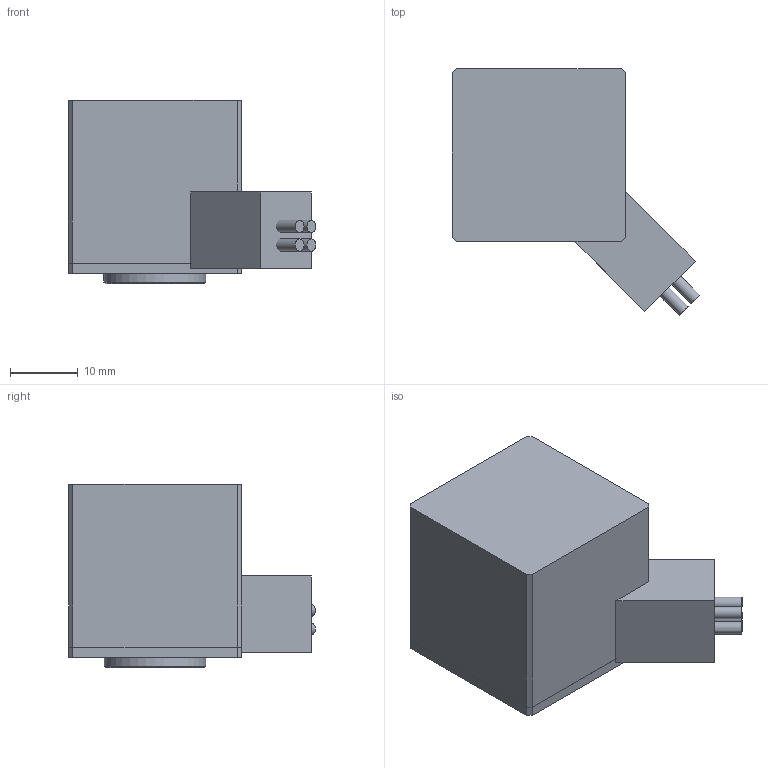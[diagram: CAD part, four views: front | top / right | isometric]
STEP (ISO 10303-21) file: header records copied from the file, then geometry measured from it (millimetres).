
FILE_DESCRIPTION(/* description */ (''),/* implementation_level */ '2;1');
FILE_NAME(/* name */ 'C:/Users/titz/Downloads/D3-1-14-1000-00-uD3RN_STD_Simplified-2.step',/* time_stamp */ '2022-09-14T16:32:19+02:00',/* author */ (''),/* organization */ (''),/* preprocessor_version */ 'ST-DEVELOPER v19',/* originating_system */ 'Autodesk Translation Framework v11.7.0.108',/* authorisation */ '');
FILE_SCHEMA (('AUTOMOTIVE_DESIGN { 1 0 10303 214 3 1 1 }'));
Length unit declared in the file: millimetre
Products named in the file (6): D3-1-14-1000-00-uD3RN_STD_Simplified-2; RN_lin_cage; RN_lin_casing; RN_lin_nut; Installation Space (2); D3-01-1000-05-WireSleeve-V3_D3-01-1000-05-WireSleeve-V9 v1
Assembly tree (5 placements, depth 2):
  D3-1-14-1000-00-uD3RN_STD_Simplified-2
    RN_lin_cage
    RN_lin_casing
    RN_lin_nut
    Installation Space (2)
    D3-01-1000-05-WireSleeve-V3_D3-01-1000-05-WireSleeve-V9 v1
Bounding box: 36.47 x 36.38 x 27 mm (x, y, z)
Volume: 15906.6 mm3; surface area: 12276.1 mm2
Topology: 9 solids, 9 shells, 133 faces, 298 edges, 188 vertices
Faces by surface type: plane 77, cylinder 36, bspline 14, cone 6
Full cylindrical faces by diameter (mm): 1.8 x8, 2.529 x2, 4.234 x1, 10.5 x2, 15 x1
Entity records: 4239 total; most frequent: CARTESIAN_POINT 1031, DIRECTION 648, ORIENTED_EDGE 594, EDGE_CURVE 297, AXIS2_PLACEMENT_3D 222, LINE 204, VECTOR 204, VERTEX_POINT 188
